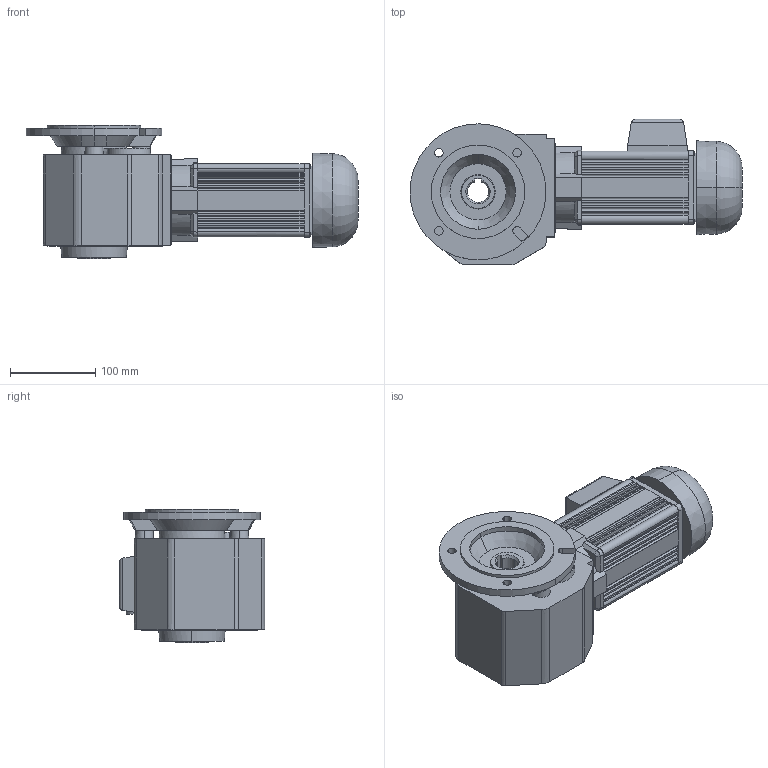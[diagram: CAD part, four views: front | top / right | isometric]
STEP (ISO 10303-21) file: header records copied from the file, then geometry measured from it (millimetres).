
FILE_DESCRIPTION(('OneSpaceDesigner STEP Export'),'2;1');
FILE_NAME('OEG52_ZBF48_F.stp','2008-06-23T13:57:37',(''),(''),'OneSpace Designer STEP processor (Jan. 2003) for AP214(CD)(Solid Model)','OneSpace Designer 12.01D 09-Jul-2004 (C) CoCreate Software GmbH','');
FILE_SCHEMA(('AUTOMOTIVE_DESIGN_CC2 {1 2 10303 214 -1 1 5 1}'));
Length unit declared in the file: millimetre
Products named in the file (2): OEG52_ZBF48_F
Assembly tree (1 placements, depth 2):
  OEG52_ZBF48_F
    OEG52_ZBF48_F
Bounding box: 390.5 x 170.98 x 157.5 mm (x, y, z)
Volume: 4254895.4 mm3; surface area: 283685.3 mm2
Topology: 1 solids, 1 shells, 395 faces, 1068 edges, 675 vertices
Faces by surface type: plane 208, cylinder 105, bspline 63, cone 17, torus 2
Entity records: 29298 total; most frequent: CARTESIAN_POINT 20529, ORIENTED_EDGE 2136, DIRECTION 1364, EDGE_CURVE 1068, VERTEX_POINT 675, VECTOR 572, LINE 572, EDGE_LOOP 421
